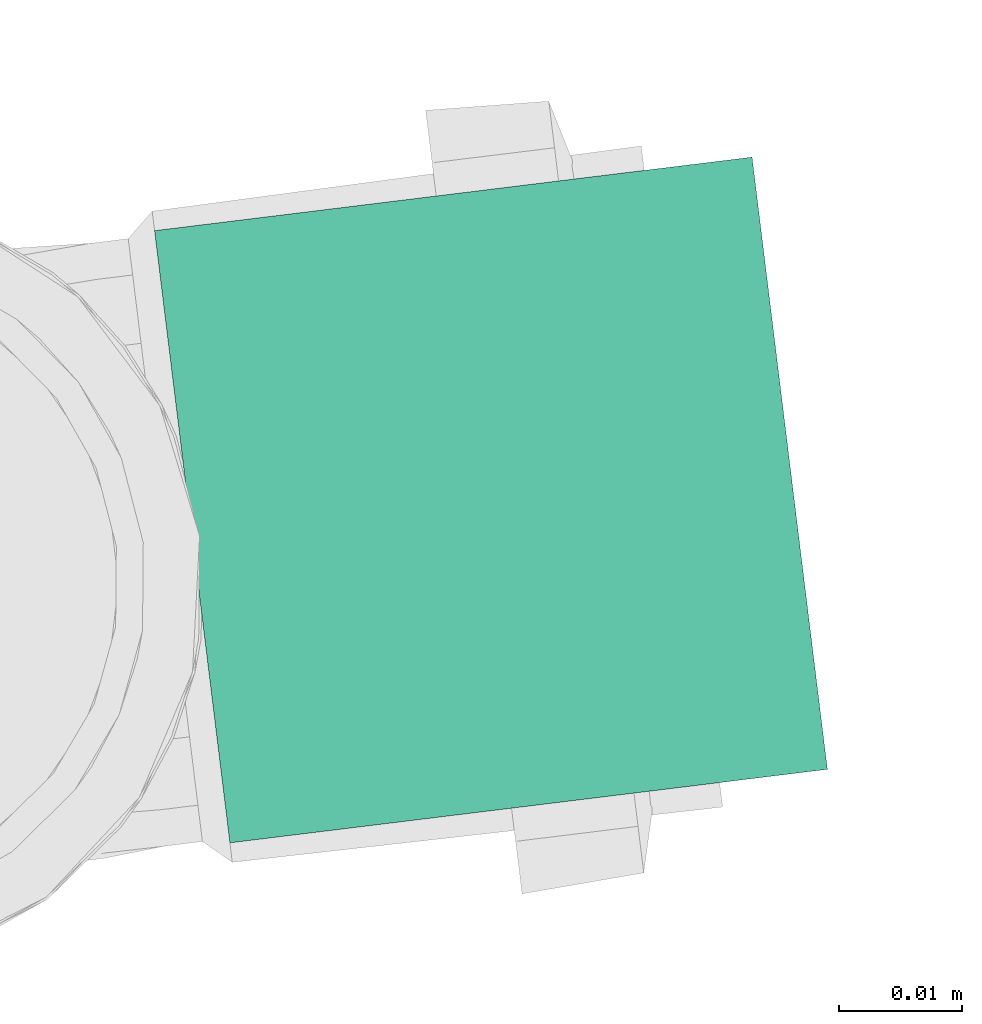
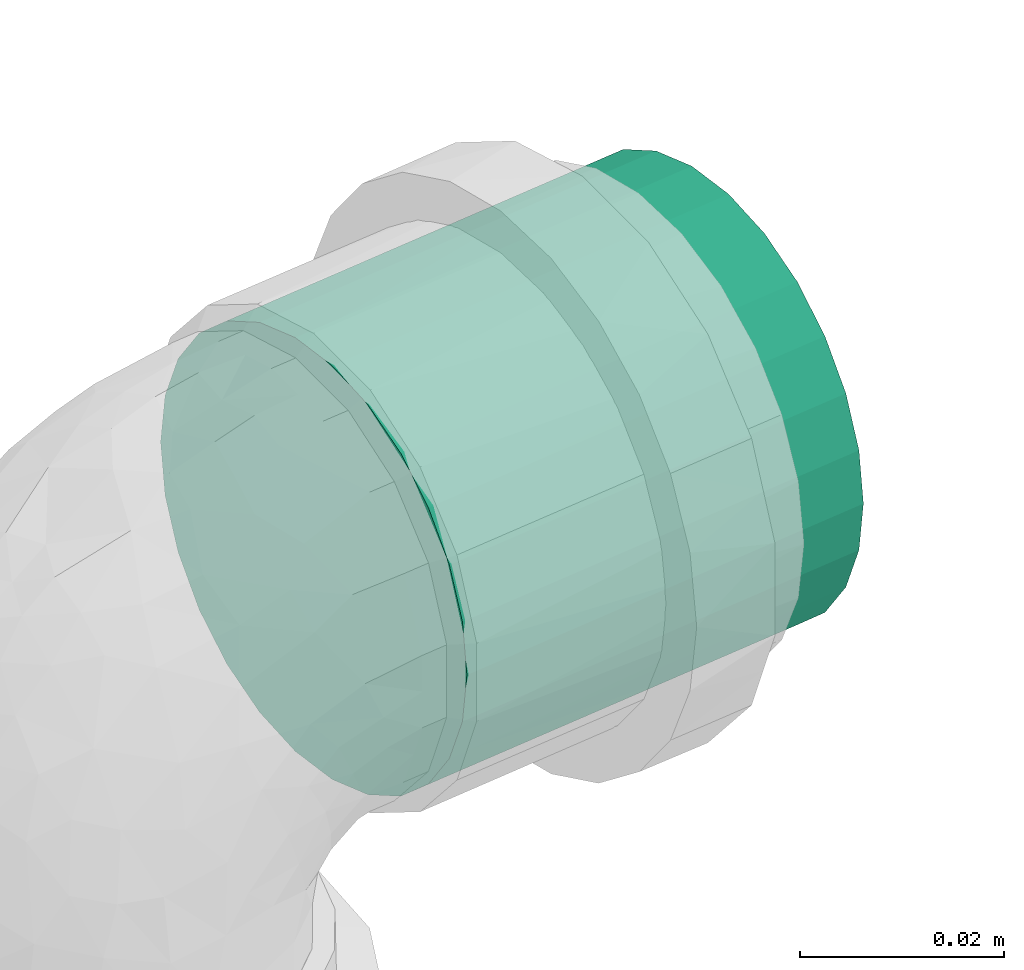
# One storey, part 79 of 97: 1 flow segment.
"""IFC2X3 building model written with IfcOpenShell, lengths in centimetres."""

from ifc_helpers import new_model, entity, si_unit, converted_unit, derived_unit, direction, frame, origin, origin_2d_with_axis, place, context, subcontext, project, spatial, circle, extrude, type_object, element, save


model = new_model("IFC2X3")

# Units and contexts
model_context = context("Model", 3, precision=0.001, world=origin(), true_north=direction((6.12303176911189e-17, 1.0)))
body_context = subcontext(model_context, "Body", "Model", "MODEL_VIEW")
ifc_project = project(units=[si_unit("LENGTHUNIT", "METRE", prefix="CENTI"), si_unit("AREAUNIT", "SQUARE_METRE"), si_unit("VOLUMEUNIT", "CUBIC_METRE"), converted_unit("PLANEANGLEUNIT", "DEGREE", entity("IfcRatioMeasure", 0.0174532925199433), si_unit("PLANEANGLEUNIT", "RADIAN"), dimensions=[0, 0, 0, 0, 0, 0, 0]), si_unit("MASSUNIT", "GRAM", prefix="KILO"), derived_unit("MASSDENSITYUNIT", [(si_unit("MASSUNIT", "GRAM", prefix="KILO"), 1), (si_unit("LENGTHUNIT", "METRE"), -3)]), derived_unit("MOMENTOFINERTIAUNIT", [(si_unit("LENGTHUNIT", "METRE"), 4)]), si_unit("TIMEUNIT", "SECOND"), si_unit("FREQUENCYUNIT", "HERTZ"), si_unit("THERMODYNAMICTEMPERATUREUNIT", "DEGREE_CELSIUS"), derived_unit("THERMALTRANSMITTANCEUNIT", [(si_unit("MASSUNIT", "GRAM", prefix="KILO"), 1), (si_unit("THERMODYNAMICTEMPERATUREUNIT", "KELVIN"), -1), (si_unit("TIMEUNIT", "SECOND"), -3)]), derived_unit("VOLUMETRICFLOWRATEUNIT", [(si_unit("LENGTHUNIT", "METRE"), 3), (si_unit("TIMEUNIT", "SECOND"), -1)]), si_unit("ELECTRICCURRENTUNIT", "AMPERE"), si_unit("ELECTRICVOLTAGEUNIT", "VOLT"), si_unit("POWERUNIT", "WATT"), si_unit("FORCEUNIT", "NEWTON", prefix="KILO"), si_unit("ILLUMINANCEUNIT", "LUX"), si_unit("LUMINOUSFLUXUNIT", "LUMEN"), si_unit("LUMINOUSINTENSITYUNIT", "CANDELA"), derived_unit("USERDEFINED", [(si_unit("MASSUNIT", "GRAM", prefix="KILO"), -1), (si_unit("LENGTHUNIT", "METRE"), -2), (si_unit("TIMEUNIT", "SECOND"), 3), (si_unit("LUMINOUSFLUXUNIT", "LUMEN"), 1)]), derived_unit("LINEARVELOCITYUNIT", [(si_unit("LENGTHUNIT", "METRE"), 1), (si_unit("TIMEUNIT", "SECOND"), -1)]), si_unit("PRESSUREUNIT", "PASCAL"), derived_unit("USERDEFINED", [(si_unit("LENGTHUNIT", "METRE"), -2), (si_unit("MASSUNIT", "GRAM", prefix="KILO"), 1), (si_unit("TIMEUNIT", "SECOND"), -2)]), derived_unit("LINEARFORCEUNIT", [(si_unit("MASSUNIT", "GRAM", prefix="KILO"), 1), (si_unit("LENGTHUNIT", "METRE"), 1), (si_unit("TIMEUNIT", "SECOND"), -2), (si_unit("LENGTHUNIT", "METRE"), -1)]), derived_unit("PLANARFORCEUNIT", [(si_unit("MASSUNIT", "GRAM", prefix="KILO"), 1), (si_unit("LENGTHUNIT", "METRE"), 1), (si_unit("TIMEUNIT", "SECOND"), -2), (si_unit("LENGTHUNIT", "METRE"), -2)])], contexts=[model_context])

# Site, building, storey
site_placement = place(None, origin())
site = spatial("IfcSite", under=ifc_project, at=site_placement, Name="Default", CompositionType="ELEMENT")
building_placement = place(site_placement, origin())
building = spatial("IfcBuilding", under=site, at=building_placement, Name="HIDROSSANITÁRIO", CompositionType="ELEMENT")
storey_placement = place(building_placement, frame((0.0, 0.0, -260.0)))
storey = spatial("IfcBuildingStorey", under=building, at=storey_placement, Name="TÉRREO-HID", CompositionType="ELEMENT", Elevation=-260.0)

# Flow segment
pipe_segment_type = type_object("IfcPipeSegmentType", Name="Tipos de tubos:Tubo - Esgoto - Série Normal", PredefinedType="NOTDEFINED")
flow_segment_placement = place(storey_placement, origin())
element("IfcFlowSegment", 1, at=flow_segment_placement, inside=storey, type_object=pipe_segment_type, Name="Tipos de tubos:Tubo - Esgoto - Série Normal", ObjectType="Tipos de tubos:Tubo - Esgoto - Série Normal", context=body_context, shape_type="SweptSolid", body=[
    extrude(circle(Radius=2.5, at=origin_2d_with_axis()), frame((-207.743388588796, 3068.39044360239, 50.0), z_axis=(0.99251135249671, 0.122152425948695, 0.0), x_axis=(-0.122152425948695, 0.99251135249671, 0.0)), (0.0, 0.0, 1.0), 4.87999999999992),
])

save(model, "model.ifc")
